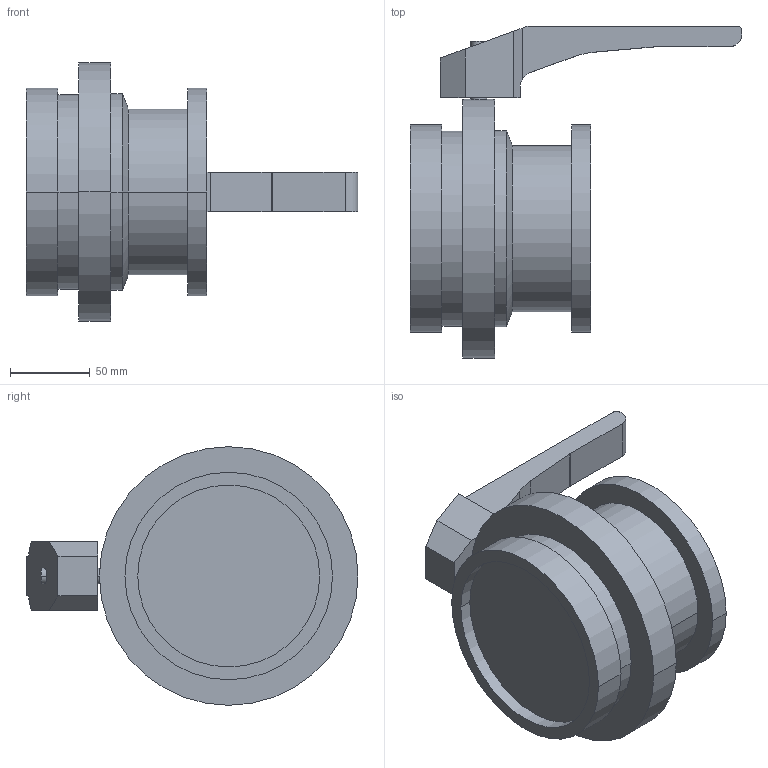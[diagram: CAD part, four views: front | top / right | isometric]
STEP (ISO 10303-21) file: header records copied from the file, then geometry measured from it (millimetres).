
FILE_DESCRIPTION(('Creo Elements/Direct Modeling STEP Export'),'2;1');
FILE_NAME('SV1-100-H-1K2G.stp','2012-11-06T14:09:51',(''),(''),'Creo Elements/Direct Modeling STEP processor for AP214 (Solid Model)','Creo Elements/Direct Modeling 17.0D 15-Jul-2011 (C) Parametric Technology GmbH','');
FILE_SCHEMA(('AUTOMOTIVE_DESIGN { 1 0 10303 214 1 1 1 1 }'));
Length unit declared in the file: millimetre
Products named in the file (3): SV1-100-H-1K2G; Handhebel-SV-40-100
Assembly tree (2 placements, depth 2):
  SV1-100-H-1K2G
    Handhebel-SV-40-100
    SV1-100-H-1K2G
Bounding box: 208 x 208 x 162 mm (x, y, z)
Volume: 1474991.6 mm3; surface area: 121305.7 mm2
Topology: 2 solids, 2 shells, 51 faces, 116 edges, 75 vertices
Faces by surface type: plane 26, cylinder 23, cone 2
Entity records: 1833 total; most frequent: CARTESIAN_POINT 628, DIRECTION 237, ORIENTED_EDGE 232, EDGE_CURVE 116, AXIS2_PLACEMENT_3D 85, VERTEX_POINT 75, VECTOR 67, LINE 67
